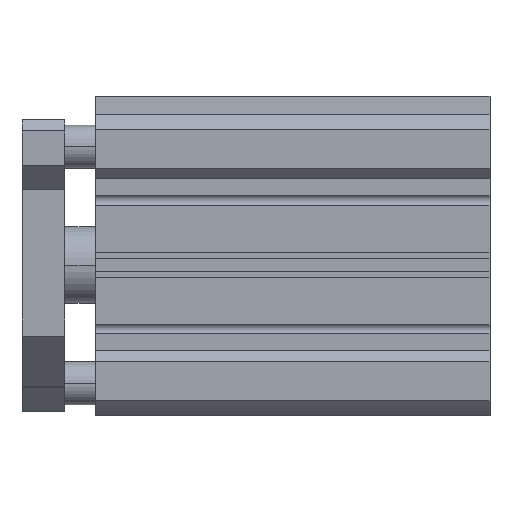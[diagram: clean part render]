
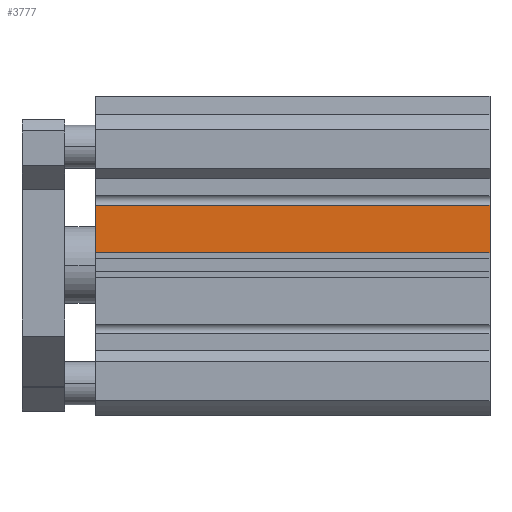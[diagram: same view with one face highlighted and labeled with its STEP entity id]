
A CAD part, top view. The second image highlights one B-rep face of the part: STEP entity #3777.
In plain terms, the highlighted planar face has unit normal (0, 0, 1).
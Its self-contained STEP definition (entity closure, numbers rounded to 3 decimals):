
#142 = VECTOR ( 'NONE', #4634, 1000. ) ;
#232 = EDGE_CURVE ( 'NONE', #5497, #2243, #3019, .T. ) ;
#234 = ORIENTED_EDGE ( 'NONE', *, *, #5224, .F. ) ;
#291 = LINE ( 'NONE', #2631, #4446 ) ;
#435 = AXIS2_PLACEMENT_3D ( 'NONE', #2732, #4724, #5614 ) ;
#733 = DIRECTION ( 'NONE',  ( 0., -1., 0. ) ) ;
#886 = VECTOR ( 'NONE', #733, 1000. ) ;
#932 = ORIENTED_EDGE ( 'NONE', *, *, #1617, .F. ) ;
#1165 = LINE ( 'NONE', #2080, #1243 ) ;
#1243 = VECTOR ( 'NONE', #4924, 1000. ) ;
#1266 = EDGE_LOOP ( 'NONE', ( #5160, #234, #932, #4961 ) ) ;
#1487 = CARTESIAN_POINT ( 'NONE',  ( 128.5, 19.5, 45.5 ) ) ;
#1617 = EDGE_CURVE ( 'NONE', #4366, #2137, #291, .T. ) ;
#1986 = CARTESIAN_POINT ( 'NONE',  ( 128.5, 19.5, 45.5 ) ) ;
#2080 = CARTESIAN_POINT ( 'NONE',  ( 128.5, 4., 45.5 ) ) ;
#2137 = VERTEX_POINT ( 'NONE', #3870 ) ;
#2243 = VERTEX_POINT ( 'NONE', #3145 ) ;
#2631 = CARTESIAN_POINT ( 'NONE',  ( 128.5, 19.5, 45.5 ) ) ;
#2700 = PLANE ( 'NONE',  #435 ) ;
#2732 = CARTESIAN_POINT ( 'NONE',  ( 128.5, 19.5, 45.5 ) ) ;
#3019 = LINE ( 'NONE', #5947, #886 ) ;
#3145 = CARTESIAN_POINT ( 'NONE',  ( 0., 4., 45.5 ) ) ;
#3416 = EDGE_CURVE ( 'NONE', #4366, #5497, #3737, .T. ) ;
#3737 = LINE ( 'NONE', #1487, #142 ) ;
#3777 = ADVANCED_FACE ( 'NONE', ( #4105 ), #2700, .F. ) ;
#3870 = CARTESIAN_POINT ( 'NONE',  ( 128.5, 4., 45.5 ) ) ;
#4092 = DIRECTION ( 'NONE',  ( 0., -1., 0. ) ) ;
#4105 = FACE_OUTER_BOUND ( 'NONE', #1266, .T. ) ;
#4313 = CARTESIAN_POINT ( 'NONE',  ( 0., 19.5, 45.5 ) ) ;
#4366 = VERTEX_POINT ( 'NONE', #1986 ) ;
#4446 = VECTOR ( 'NONE', #4092, 1000. ) ;
#4634 = DIRECTION ( 'NONE',  ( -1., 0., 0. ) ) ;
#4724 = DIRECTION ( 'NONE',  ( 0., 0., -1. ) ) ;
#4924 = DIRECTION ( 'NONE',  ( -1., 0., 0. ) ) ;
#4961 = ORIENTED_EDGE ( 'NONE', *, *, #3416, .T. ) ;
#5160 = ORIENTED_EDGE ( 'NONE', *, *, #232, .T. ) ;
#5224 = EDGE_CURVE ( 'NONE', #2137, #2243, #1165, .T. ) ;
#5497 = VERTEX_POINT ( 'NONE', #4313 ) ;
#5614 = DIRECTION ( 'NONE',  ( 0., -1., 0. ) ) ;
#5947 = CARTESIAN_POINT ( 'NONE',  ( 0., 19.5, 45.5 ) ) ;
